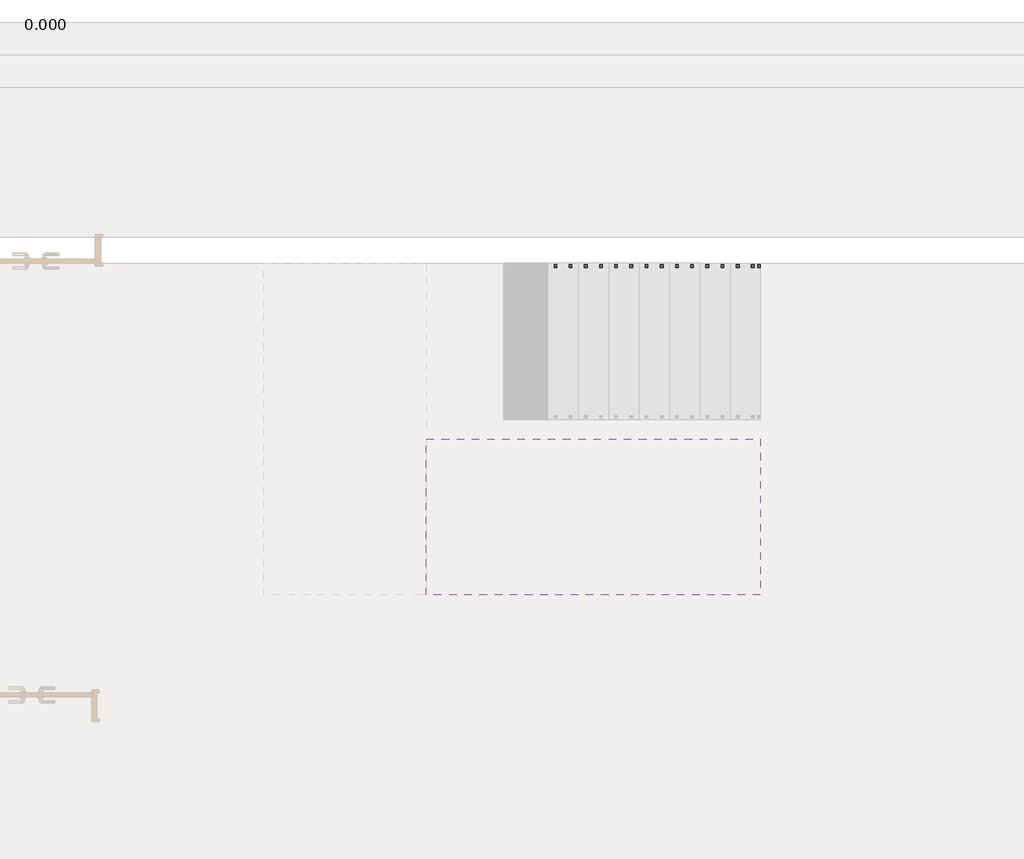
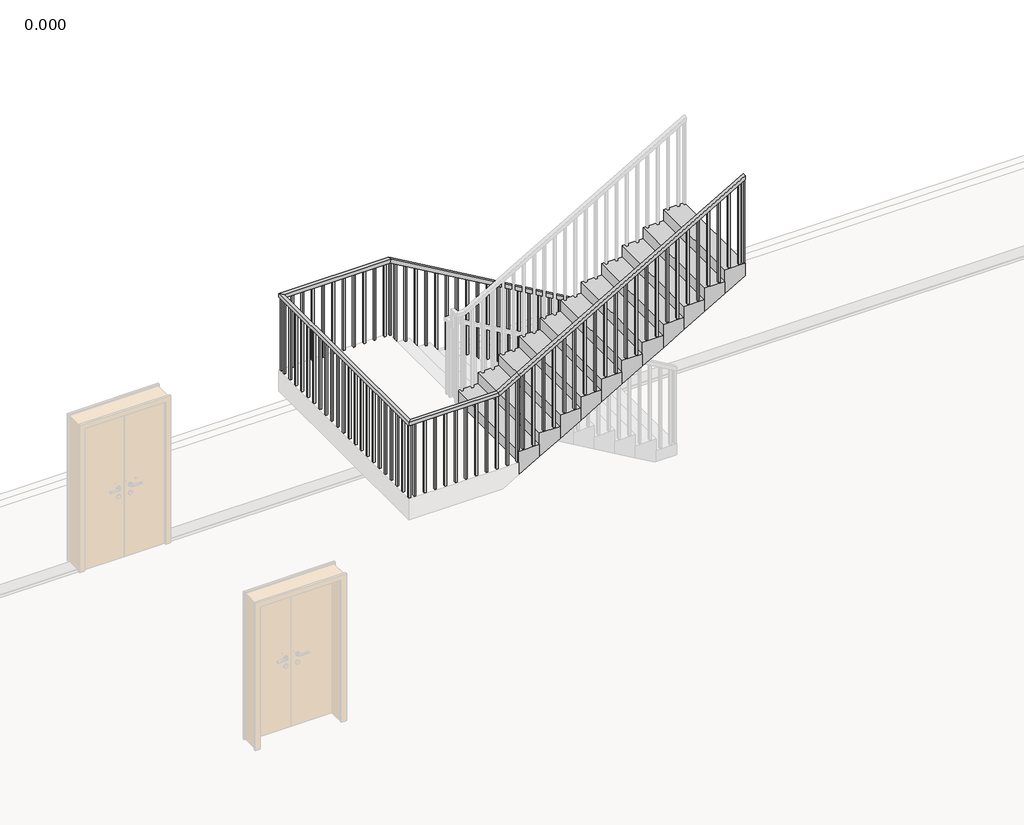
# One storey, part 2 of 4: 1 railing, 1 stair flight.
"""IFC4 building model written with IfcOpenShell, lengths in millimetres."""

import ifcopenshell
import ifcopenshell.guid

model = None  # the IFC model being written
_history = None  # IfcOwnerHistory: only IFC2X3 demands one
_inside = {}  # id of a spatial element -> (the spatial element, [elements in it])
_under = {}  # id of a project, library or spatial element -> (it, [spatial elements below it])
_declared = {}  # id of a project -> (the project, [libraries it declares])
_typed = {}  # id of a type object -> (the type object, [elements of that type])
_made_of = {}  # id of a material, layer set ... -> (it, [elements and type objects made of it])


def new_model(schema):
    """Start an empty IFC model of exactly this schema.

    Asked for "IFC4X3", IfcOpenShell would pick the latest addendum, in which some entities
    have other attributes; the version numbers below select the first issue.
    IFC2X3 requires an IfcOwnerHistory on every rooted entity: one is made here for all.
    """
    global model, _history
    if schema == "IFC4X3":
        model = ifcopenshell.file(schema_version=(4, 3, 0, 0))
    else:
        model = ifcopenshell.file(schema=schema)
    _inside.clear()
    _under.clear()
    _declared.clear()
    _typed.clear()
    _made_of.clear()
    _history = None
    if model.schema == "IFC2X3":
        org = make("IfcOrganization", Name="unknown")
        user = make(
            "IfcPersonAndOrganization",
            ThePerson=make("IfcPerson", FamilyName="unknown"),
            TheOrganization=org,
        )
        app = make(
            "IfcApplication",
            ApplicationDeveloper=org,
            Version="unknown",
            ApplicationFullName="unknown",
            ApplicationIdentifier="unknown",
        )
        _history = make(
            "IfcOwnerHistory",
            OwningUser=user,
            OwningApplication=app,
            ChangeAction="ADDED",
            CreationDate=0,
        )
    return model


def make(cls, **values):
    """One entity of the class cls with the attributes given. An attribute that is None is left unset."""
    return model.create_entity(
        cls, **{name: value for name, value in values.items() if value is not None}
    )


def rooted(cls, **values):
    """An entity with a GlobalId (a new one), such as an element, a storey or a relation."""
    return make(cls, GlobalId=ifcopenshell.guid.new(), OwnerHistory=_history, **values)


def si_unit(unit_type, name, prefix=None):
    """IfcSIUnit, for example si_unit("LENGTHUNIT", "METRE", prefix="MILLI")."""
    return make("IfcSIUnit", UnitType=unit_type, Prefix=prefix, Name=name)


def assignment(units):
    """IfcUnitAssignment: the units of a project."""
    return None if units is None else make("IfcUnitAssignment", Units=units)


def point(xyz):
    """IfcCartesianPoint."""
    return None if xyz is None else make("IfcCartesianPoint", Coordinates=xyz)


def direction(xyz):
    """IfcDirection."""
    return None if xyz is None else make("IfcDirection", DirectionRatios=xyz)


def frame(location, z_axis=None, x_axis=None):
    """IfcAxis2Placement3D, a coordinate frame: its origin and axes. An axis left out is left unset."""
    return make(
        "IfcAxis2Placement3D",
        Location=point(location),
        Axis=direction(z_axis),
        RefDirection=direction(x_axis),
    )


def origin():
    """The frame at (0, 0, 0) with its axes left unset."""
    return frame((0.0, 0.0, 0.0))


def place(relative_to, where):
    """IfcLocalPlacement: puts the frame where relative to a parent placement (None: the world)."""
    return make(
        "IfcLocalPlacement", PlacementRelTo=relative_to, RelativePlacement=where
    )


def context(
    kind, dimensions, precision=None, world=None, true_north=None, identifier=None
):
    """IfcGeometricRepresentationContext, for example the 3D "Model" context."""
    return make(
        "IfcGeometricRepresentationContext",
        ContextIdentifier=identifier,
        ContextType=kind,
        CoordinateSpaceDimension=dimensions,
        Precision=precision,
        WorldCoordinateSystem=world,
        TrueNorth=true_north,
    )


def project(units=None, contexts=None):
    """IfcProject with its units and contexts."""
    return rooted(
        "IfcProject",
        Name="project",
        RepresentationContexts=contexts,
        UnitsInContext=assignment(units),
    )


def spatial(cls, under=None, at=None, **own):
    """A site, building, storey or space (cls), placed at a placement, below another one or the project."""
    s = rooted(cls, ObjectPlacement=at, **own)
    if under is not None:
        _under.setdefault(under.id(), (under, []))[1].append(s)
    return s


def polyline(points):
    """IfcPolyline through the points."""
    return make("IfcPolyline", Points=[point(p) for p in points])


def outline(outer, holes=None, kind="AREA"):
    """IfcArbitraryClosedProfileDef: a profile drawn as a closed curve; with holes, ...WithVoids."""
    if holes is None:
        return make("IfcArbitraryClosedProfileDef", ProfileType=kind, OuterCurve=outer)
    return make(
        "IfcArbitraryProfileDefWithVoids",
        ProfileType=kind,
        OuterCurve=outer,
        InnerCurves=holes,
    )


def extrude(swept, where, along, depth):
    """IfcExtrudedAreaSolid: the profile swept, set in the frame where, extruded along a direction by depth."""
    return make(
        "IfcExtrudedAreaSolid",
        SweptArea=swept,
        Position=where,
        ExtrudedDirection=direction(along),
        Depth=depth,
    )


def faces_of(points, faces, orient=None, outer=None):
    """IfcFace entities. A face is a list of loops; a loop is a list of indices into points, from 0.

    orient and outer hold one flag for each loop. By default every Orientation is true, the
    first loop of a face is its IfcFaceOuterBound and the others are IfcFaceBound.
    """
    made = []
    for i, loops in enumerate(faces):
        bounds = []
        for j, loop in enumerate(loops):
            is_outer = j == 0 if outer is None else outer[i][j]
            bounds.append(
                make(
                    "IfcFaceOuterBound" if is_outer else "IfcFaceBound",
                    Bound=make("IfcPolyLoop", Polygon=[points[k] for k in loop]),
                    Orientation=True if orient is None else orient[i][j],
                )
            )
        made.append(make("IfcFace", Bounds=bounds))
    return made


def faceted_brep(points, faces, orient=None, outer=None, voids=None):
    """IfcFacetedBrep: a solid bounded by flat faces; with voids (closed shells), ...WithVoids."""
    shared = [point(p) for p in points]
    hull = make("IfcClosedShell", CfsFaces=faces_of(shared, faces, orient, outer))
    if voids is None:
        return make("IfcFacetedBrep", Outer=hull)
    return make(
        "IfcFacetedBrepWithVoids",
        Outer=hull,
        Voids=[
            make(cls, CfsFaces=faces_of(shared, fs, o, b)) for cls, fs, o, b in voids
        ],
    )


def shape(context_of_items, identifier, shape_type, items):
    """IfcShapeRepresentation: the items that make up one representation, for example the "Body"."""
    return make(
        "IfcShapeRepresentation",
        ContextOfItems=context_of_items,
        RepresentationIdentifier=identifier,
        RepresentationType=shape_type,
        Items=items,
    )


def made_of(thing, what):
    """Note that an element or type object is made of a material, layer set ...; save() writes the relation."""
    if what is not None:
        _made_of.setdefault(what.id(), (what, []))[1].append(thing)
    return thing


def element(
    cls,
    number,
    at=None,
    inside=None,
    cuts=None,
    type_object=None,
    material=None,
    context=None,
    identifier="Body",
    shape_type=None,
    held_by="IfcProductDefinitionShape",
    body=None,
    shapes=None,
    **own,
):
    """One element of the class cls, such as IfcWall. Its Tag is "e" and its number.

    at: its placement. inside: the storey or other place that contains it. cuts: it is an
    opening in that element (IfcRelVoidsElement). A single representation is given by context,
    identifier, shape_type and body (its items); several are given by shapes. held_by: the class
    of the entity that holds the representations. save() writes the other relations.
    """
    e = rooted(cls, Tag="e%d" % number, ObjectPlacement=at, **own)
    if body is not None:
        shapes = [shape(context, identifier, shape_type, body)]
    if shapes is not None:
        e.Representation = make(held_by, Representations=shapes)
    if inside is not None:
        _inside.setdefault(inside.id(), (inside, []))[1].append(e)
    if cuts is not None:
        rooted(
            "IfcRelVoidsElement", RelatingBuildingElement=cuts, RelatedOpeningElement=e
        )
    if type_object is not None:
        _typed.setdefault(type_object.id(), (type_object, []))[1].append(e)
    return made_of(e, material)


def aggregate(whole, parts):
    """IfcRelAggregates: a whole, such as a stair, and the parts it consists of."""
    return rooted("IfcRelAggregates", RelatingObject=whole, RelatedObjects=parts)


def save(model, path):
    """Write the relations noted so far, then the file.

    IfcRelAggregates (storeys below a building ...), IfcRelContainedInSpatialStructure (elements
    in a storey), IfcRelDefinesByType, IfcRelAssociatesMaterial and IfcRelDeclares: one each for
    every whole, place, type object, material and project.
    """
    for whole, parts in _under.values():
        aggregate(whole, parts)
    for where, things in _inside.values():
        rooted(
            "IfcRelContainedInSpatialStructure",
            RelatedElements=things,
            RelatingStructure=where,
        )
    for kind, things in _typed.values():
        rooted("IfcRelDefinesByType", RelatedObjects=things, RelatingType=kind)
    for what, things in _made_of.values():
        rooted("IfcRelAssociatesMaterial", RelatedObjects=things, RelatingMaterial=what)
    for by, libraries in _declared.values():
        rooted("IfcRelDeclares", RelatingContext=by, RelatedDefinitions=libraries)
    model.write(path)


model = new_model("IFC4")

# Units and contexts
model_context = context("Model", 3, world=origin())
ifc_project = project(units=[si_unit("LENGTHUNIT", "METRE", prefix="MILLI")], contexts=[model_context])

# Site, building, storey
site = spatial("IfcSite", under=ifc_project)
building = spatial("IfcBuilding", under=site)
storey = spatial("IfcBuildingStorey", under=building, Name="0.000", Elevation=0.0)

# Railing
placement = place(None, origin())
element("IfcRailing", 1, ObjectType="1100mm", at=placement, inside=storey, context=model_context, shape_type="SolidModel", body=[
    faceted_brep([(8832.9890344, 5346.2095817, 1262.5), (8832.9890344, 5346.2095817, 1204.6896546), (8832.9890344, 5396.2095817, 1204.6896546), (8832.9890344, 5396.2095817, 1262.5), (5752.9890344, 5346.2095817, 3050.0), (5739.5312085, 5346.2095817, 3000.0), (5739.5312085, 5396.2095817, 3000.0), (5752.9890344, 5396.2095817, 3050.0), (4303.3890344, 5346.2095817, 3050.0), (4303.3890344, 5346.2095817, 3000.0), (4253.3890344, 5396.2095817, 3000.0), (4253.3890344, 5396.2095817, 3050.0), (4303.3890344, 2387.0095817, 3050.0), (4303.3890344, 2387.0095817, 3000.0), (4253.3890344, 2337.0095817, 3000.0), (4253.3890344, 2337.0095817, 3050.0), (5472.9890344, 2387.0095817, 3050.0), (5486.4468602, 2387.0095817, 3000.0), (5486.4468602, 2337.0095817, 3000.0), (5472.9890344, 2337.0095817, 3050.0), (5752.9890344, 2387.0095817, 3212.5), (5778.0864948, 2387.0095817, 3169.2551451), (5778.0864948, 2337.0095817, 3169.2551451), (5752.9890344, 2337.0095817, 3212.5), (8832.9890344, 2387.0095817, 5000.0), (8832.9890344, 2337.0095817, 5000.0), (8832.9890344, 2337.0095817, 4942.1896546), (8832.9890344, 2387.0095817, 4942.1896546)], [[[0, 1, 2, 3]], [[1, 0, 4, 5]], [[2, 1, 5, 6]], [[3, 2, 6, 7]], [[0, 3, 7, 4]], [[5, 4, 8, 9]], [[6, 5, 9, 10]], [[7, 6, 10, 11]], [[4, 7, 11, 8]], [[9, 8, 12, 13]], [[10, 9, 13, 14]], [[11, 10, 14, 15]], [[8, 11, 15, 12]], [[13, 12, 16, 17]], [[14, 13, 17, 18]], [[15, 14, 18, 19]], [[12, 15, 19, 16]], [[17, 16, 20, 21]], [[18, 17, 21, 22]], [[19, 18, 22, 23]], [[16, 19, 23, 20]], [[24, 25, 26, 27]], [[21, 20, 24, 27]], [[22, 21, 27, 26]], [[23, 22, 26, 25]], [[20, 23, 25, 24]]]),
    extrude(outline(polyline([(4894.3101903, 8750.4890344), (3737.5, 8750.4890344), (3737.5, 8775.4890344), (4908.8191189, 8775.4890344), (4894.3101903, 8750.4890344)])), frame((0.0, 2349.5095817, 0.0), z_axis=(0.0, 1.0, 0.0), x_axis=(0.0, 0.0, 1.0)), (0.0, 0.0, 1.0), 25.0),
    extrude(outline(polyline([(4813.0601903, 8610.4890344), (3737.5, 8610.4890344), (3737.5, 8635.4890344), (4827.5691189, 8635.4890344), (4813.0601903, 8610.4890344)])), frame((0.0, 2349.5095817, 0.0), z_axis=(0.0, 1.0, 0.0), x_axis=(0.0, 0.0, 1.0)), (0.0, 0.0, 1.0), 25.0),
    extrude(outline(polyline([(4731.8101903, 8470.4890344), (3575.0, 8470.4890344), (3575.0, 8495.4890344), (4746.3191189, 8495.4890344), (4731.8101903, 8470.4890344)])), frame((0.0, 2349.5095817, 0.0), z_axis=(0.0, 1.0, 0.0), x_axis=(0.0, 0.0, 1.0)), (0.0, 0.0, 1.0), 25.0),
    extrude(outline(polyline([(4650.5601903, 8330.4890344), (3575.0, 8330.4890344), (3575.0, 8355.4890344), (4665.0691189, 8355.4890344), (4650.5601903, 8330.4890344)])), frame((0.0, 2349.5095817, 0.0), z_axis=(0.0, 1.0, 0.0), x_axis=(0.0, 0.0, 1.0)), (0.0, 0.0, 1.0), 25.0),
    extrude(outline(polyline([(4569.3101903, 8190.4890344), (3412.5, 8190.4890344), (3412.5, 8215.4890344), (4583.8191189, 8215.4890344), (4569.3101903, 8190.4890344)])), frame((0.0, 2349.5095817, 0.0), z_axis=(0.0, 1.0, 0.0), x_axis=(0.0, 0.0, 1.0)), (0.0, 0.0, 1.0), 25.0),
    extrude(outline(polyline([(4488.0601903, 8050.4890344), (3412.5, 8050.4890344), (3412.5, 8075.4890344), (4502.5691189, 8075.4890344), (4488.0601903, 8050.4890344)])), frame((0.0, 2349.5095817, 0.0), z_axis=(0.0, 1.0, 0.0), x_axis=(0.0, 0.0, 1.0)), (0.0, 0.0, 1.0), 25.0),
    extrude(outline(polyline([(4406.8101903, 7910.4890344), (3250.0, 7910.4890344), (3250.0, 7935.4890344), (4421.3191189, 7935.4890344), (4406.8101903, 7910.4890344)])), frame((0.0, 2349.5095817, 0.0), z_axis=(0.0, 1.0, 0.0), x_axis=(0.0, 0.0, 1.0)), (0.0, 0.0, 1.0), 25.0),
    extrude(outline(polyline([(4325.5601903, 7770.4890344), (3250.0, 7770.4890344), (3250.0, 7795.4890344), (4340.0691189, 7795.4890344), (4325.5601903, 7770.4890344)])), frame((0.0, 2349.5095817, 0.0), z_axis=(0.0, 1.0, 0.0), x_axis=(0.0, 0.0, 1.0)), (0.0, 0.0, 1.0), 25.0),
    extrude(outline(polyline([(4244.3101903, 7630.4890344), (3087.5, 7630.4890344), (3087.5, 7655.4890344), (4258.8191189, 7655.4890344), (4244.3101903, 7630.4890344)])), frame((0.0, 2349.5095817, 0.0), z_axis=(0.0, 1.0, 0.0), x_axis=(0.0, 0.0, 1.0)), (0.0, 0.0, 1.0), 25.0),
    extrude(outline(polyline([(4163.0601903, 7490.4890344), (3087.5, 7490.4890344), (3087.5, 7515.4890344), (4177.5691189, 7515.4890344), (4163.0601903, 7490.4890344)])), frame((0.0, 2349.5095817, 0.0), z_axis=(0.0, 1.0, 0.0), x_axis=(0.0, 0.0, 1.0)), (0.0, 0.0, 1.0), 25.0),
    extrude(outline(polyline([(4081.8101903, 7350.4890344), (2925.0, 7350.4890344), (2925.0, 7375.4890344), (4096.3191189, 7375.4890344), (4081.8101903, 7350.4890344)])), frame((0.0, 2349.5095817, 0.0), z_axis=(0.0, 1.0, 0.0), x_axis=(0.0, 0.0, 1.0)), (0.0, 0.0, 1.0), 25.0),
    extrude(outline(polyline([(4000.5601903, 7210.4890344), (2925.0, 7210.4890344), (2925.0, 7235.4890344), (4015.0691189, 7235.4890344), (4000.5601903, 7210.4890344)])), frame((0.0, 2349.5095817, 0.0), z_axis=(0.0, 1.0, 0.0), x_axis=(0.0, 0.0, 1.0)), (0.0, 0.0, 1.0), 25.0),
    extrude(outline(polyline([(3919.3101903, 7070.4890344), (2762.5, 7070.4890344), (2762.5, 7095.4890344), (3933.8191189, 7095.4890344), (3919.3101903, 7070.4890344)])), frame((0.0, 2349.5095817, 0.0), z_axis=(0.0, 1.0, 0.0), x_axis=(0.0, 0.0, 1.0)), (0.0, 0.0, 1.0), 25.0),
    extrude(outline(polyline([(3838.0601903, 6930.4890344), (2762.5, 6930.4890344), (2762.5, 6955.4890344), (3852.5691189, 6955.4890344), (3838.0601903, 6930.4890344)])), frame((0.0, 2349.5095817, 0.0), z_axis=(0.0, 1.0, 0.0), x_axis=(0.0, 0.0, 1.0)), (0.0, 0.0, 1.0), 25.0),
    extrude(outline(polyline([(3756.8101903, 6790.4890344), (2600.0, 6790.4890344), (2600.0, 6815.4890344), (3771.3191189, 6815.4890344), (3756.8101903, 6790.4890344)])), frame((0.0, 2349.5095817, 0.0), z_axis=(0.0, 1.0, 0.0), x_axis=(0.0, 0.0, 1.0)), (0.0, 0.0, 1.0), 25.0),
    extrude(outline(polyline([(3675.5601903, 6650.4890344), (2600.0, 6650.4890344), (2600.0, 6675.4890344), (3690.0691189, 6675.4890344), (3675.5601903, 6650.4890344)])), frame((0.0, 2349.5095817, 0.0), z_axis=(0.0, 1.0, 0.0), x_axis=(0.0, 0.0, 1.0)), (0.0, 0.0, 1.0), 25.0),
    extrude(outline(polyline([(3594.3101903, 6510.4890344), (2437.5, 6510.4890344), (2437.5, 6535.4890344), (3608.8191189, 6535.4890344), (3594.3101903, 6510.4890344)])), frame((0.0, 2349.5095817, 0.0), z_axis=(0.0, 1.0, 0.0), x_axis=(0.0, 0.0, 1.0)), (0.0, 0.0, 1.0), 25.0),
    extrude(outline(polyline([(3513.0601903, 6370.4890344), (2437.5, 6370.4890344), (2437.5, 6395.4890344), (3527.5691189, 6395.4890344), (3513.0601903, 6370.4890344)])), frame((0.0, 2349.5095817, 0.0), z_axis=(0.0, 1.0, 0.0), x_axis=(0.0, 0.0, 1.0)), (0.0, 0.0, 1.0), 25.0),
    extrude(outline(polyline([(3431.8101903, 6230.4890344), (2275.0, 6230.4890344), (2275.0, 6255.4890344), (3446.3191189, 6255.4890344), (3431.8101903, 6230.4890344)])), frame((0.0, 2349.5095817, 0.0), z_axis=(0.0, 1.0, 0.0), x_axis=(0.0, 0.0, 1.0)), (0.0, 0.0, 1.0), 25.0),
    extrude(outline(polyline([(3350.5601903, 6090.4890344), (2275.0, 6090.4890344), (2275.0, 6115.4890344), (3365.0691189, 6115.4890344), (3350.5601903, 6090.4890344)])), frame((0.0, 2349.5095817, 0.0), z_axis=(0.0, 1.0, 0.0), x_axis=(0.0, 0.0, 1.0)), (0.0, 0.0, 1.0), 25.0),
    extrude(outline(polyline([(3269.3101903, 5950.4890344), (2112.5, 5950.4890344), (2112.5, 5975.4890344), (3283.8191189, 5975.4890344), (3269.3101903, 5950.4890344)])), frame((0.0, 2349.5095817, 0.0), z_axis=(0.0, 1.0, 0.0), x_axis=(0.0, 0.0, 1.0)), (0.0, 0.0, 1.0), 25.0),
    extrude(outline(polyline([(3188.0601903, 5810.4890344), (2112.5, 5810.4890344), (2112.5, 5835.4890344), (3202.5691189, 5835.4890344), (3188.0601903, 5810.4890344)])), frame((0.0, 2349.5095817, 0.0), z_axis=(0.0, 1.0, 0.0), x_axis=(0.0, 0.0, 1.0)), (0.0, 0.0, 1.0), 25.0),
    extrude(outline(polyline([(3144.7655475, 5735.8890344), (1950.0, 5735.8890344), (1950.0, 5760.8890344), (3159.274476, 5760.8890344), (3144.7655475, 5735.8890344)])), frame((0.0, 2349.5095817, 0.0), z_axis=(0.0, 1.0, 0.0), x_axis=(0.0, 0.0, 1.0)), (0.0, 0.0, 1.0), 25.0),
    extrude(outline(polyline([(3063.5155475, 5595.8890344), (1950.0, 5595.8890344), (1950.0, 5620.8890344), (3078.024476, 5620.8890344), (3063.5155475, 5595.8890344)])), frame((0.0, 2349.5095817, 0.0), z_axis=(0.0, 1.0, 0.0), x_axis=(0.0, 0.0, 1.0)), (0.0, 0.0, 1.0), 25.0),
    extrude(outline(polyline([(5455.8890344, 2349.5095817), (5455.8890344, 2374.5095817), (5480.8890344, 2374.5095817), (5480.8890344, 2349.5095817), (5455.8890344, 2349.5095817)])), frame((0.0, 0.0, 1950.0), z_axis=(0.0, 0.0, 1.0), x_axis=(1.0, 0.0, 0.0)), (0.0, 0.0, 1.0), 1050.0),
    extrude(outline(polyline([(5315.8890344, 2349.5095817), (5315.8890344, 2374.5095817), (5340.8890344, 2374.5095817), (5340.8890344, 2349.5095817), (5315.8890344, 2349.5095817)])), frame((0.0, 0.0, 1950.0), z_axis=(0.0, 0.0, 1.0), x_axis=(1.0, 0.0, 0.0)), (0.0, 0.0, 1.0), 1050.0),
    extrude(outline(polyline([(5175.8890344, 2349.5095817), (5175.8890344, 2374.5095817), (5200.8890344, 2374.5095817), (5200.8890344, 2349.5095817), (5175.8890344, 2349.5095817)])), frame((0.0, 0.0, 1950.0), z_axis=(0.0, 0.0, 1.0), x_axis=(1.0, 0.0, 0.0)), (0.0, 0.0, 1.0), 1050.0),
    extrude(outline(polyline([(5035.8890344, 2349.5095817), (5035.8890344, 2374.5095817), (5060.8890344, 2374.5095817), (5060.8890344, 2349.5095817), (5035.8890344, 2349.5095817)])), frame((0.0, 0.0, 1950.0), z_axis=(0.0, 0.0, 1.0), x_axis=(1.0, 0.0, 0.0)), (0.0, 0.0, 1.0), 1050.0),
    extrude(outline(polyline([(4895.8890344, 2349.5095817), (4895.8890344, 2374.5095817), (4920.8890344, 2374.5095817), (4920.8890344, 2349.5095817), (4895.8890344, 2349.5095817)])), frame((0.0, 0.0, 1950.0), z_axis=(0.0, 0.0, 1.0), x_axis=(1.0, 0.0, 0.0)), (0.0, 0.0, 1.0), 1050.0),
    extrude(outline(polyline([(4755.8890344, 2349.5095817), (4755.8890344, 2374.5095817), (4780.8890344, 2374.5095817), (4780.8890344, 2349.5095817), (4755.8890344, 2349.5095817)])), frame((0.0, 0.0, 1950.0), z_axis=(0.0, 0.0, 1.0), x_axis=(1.0, 0.0, 0.0)), (0.0, 0.0, 1.0), 1050.0),
    extrude(outline(polyline([(4615.8890344, 2349.5095817), (4615.8890344, 2374.5095817), (4640.8890344, 2374.5095817), (4640.8890344, 2349.5095817), (4615.8890344, 2349.5095817)])), frame((0.0, 0.0, 1950.0), z_axis=(0.0, 0.0, 1.0), x_axis=(1.0, 0.0, 0.0)), (0.0, 0.0, 1.0), 1050.0),
    extrude(outline(polyline([(4475.8890344, 2349.5095817), (4475.8890344, 2374.5095817), (4500.8890344, 2374.5095817), (4500.8890344, 2349.5095817), (4475.8890344, 2349.5095817)])), frame((0.0, 0.0, 1950.0), z_axis=(0.0, 0.0, 1.0), x_axis=(1.0, 0.0, 0.0)), (0.0, 0.0, 1.0), 1050.0),
    extrude(outline(polyline([(4335.8890344, 2349.5095817), (4335.8890344, 2374.5095817), (4360.8890344, 2374.5095817), (4360.8890344, 2349.5095817), (4335.8890344, 2349.5095817)])), frame((0.0, 0.0, 1950.0), z_axis=(0.0, 0.0, 1.0), x_axis=(1.0, 0.0, 0.0)), (0.0, 0.0, 1.0), 1050.0),
    extrude(outline(polyline([(4265.8890344, 2513.7095817), (4290.8890344, 2513.7095817), (4290.8890344, 2488.7095817), (4265.8890344, 2488.7095817), (4265.8890344, 2513.7095817)])), frame((0.0, 0.0, 1950.0), z_axis=(0.0, 0.0, 1.0), x_axis=(1.0, 0.0, 0.0)), (0.0, 0.0, 1.0), 1050.0),
    extrude(outline(polyline([(4265.8890344, 2653.7095817), (4290.8890344, 2653.7095817), (4290.8890344, 2628.7095817), (4265.8890344, 2628.7095817), (4265.8890344, 2653.7095817)])), frame((0.0, 0.0, 1950.0), z_axis=(0.0, 0.0, 1.0), x_axis=(1.0, 0.0, 0.0)), (0.0, 0.0, 1.0), 1050.0),
    extrude(outline(polyline([(4265.8890344, 2793.7095817), (4290.8890344, 2793.7095817), (4290.8890344, 2768.7095817), (4265.8890344, 2768.7095817), (4265.8890344, 2793.7095817)])), frame((0.0, 0.0, 1950.0), z_axis=(0.0, 0.0, 1.0), x_axis=(1.0, 0.0, 0.0)), (0.0, 0.0, 1.0), 1050.0),
    extrude(outline(polyline([(4265.8890344, 2933.7095817), (4290.8890344, 2933.7095817), (4290.8890344, 2908.7095817), (4265.8890344, 2908.7095817), (4265.8890344, 2933.7095817)])), frame((0.0, 0.0, 1950.0), z_axis=(0.0, 0.0, 1.0), x_axis=(1.0, 0.0, 0.0)), (0.0, 0.0, 1.0), 1050.0),
    extrude(outline(polyline([(4265.8890344, 3073.7095817), (4290.8890344, 3073.7095817), (4290.8890344, 3048.7095817), (4265.8890344, 3048.7095817), (4265.8890344, 3073.7095817)])), frame((0.0, 0.0, 1950.0), z_axis=(0.0, 0.0, 1.0), x_axis=(1.0, 0.0, 0.0)), (0.0, 0.0, 1.0), 1050.0),
    extrude(outline(polyline([(4265.8890344, 3213.7095817), (4290.8890344, 3213.7095817), (4290.8890344, 3188.7095817), (4265.8890344, 3188.7095817), (4265.8890344, 3213.7095817)])), frame((0.0, 0.0, 1950.0), z_axis=(0.0, 0.0, 1.0), x_axis=(1.0, 0.0, 0.0)), (0.0, 0.0, 1.0), 1050.0),
    extrude(outline(polyline([(4265.8890344, 3353.7095817), (4290.8890344, 3353.7095817), (4290.8890344, 3328.7095817), (4265.8890344, 3328.7095817), (4265.8890344, 3353.7095817)])), frame((0.0, 0.0, 1950.0), z_axis=(0.0, 0.0, 1.0), x_axis=(1.0, 0.0, 0.0)), (0.0, 0.0, 1.0), 1050.0),
    extrude(outline(polyline([(4265.8890344, 3493.7095817), (4290.8890344, 3493.7095817), (4290.8890344, 3468.7095817), (4265.8890344, 3468.7095817), (4265.8890344, 3493.7095817)])), frame((0.0, 0.0, 1950.0), z_axis=(0.0, 0.0, 1.0), x_axis=(1.0, 0.0, 0.0)), (0.0, 0.0, 1.0), 1050.0),
    extrude(outline(polyline([(4265.8890344, 3633.7095817), (4290.8890344, 3633.7095817), (4290.8890344, 3608.7095817), (4265.8890344, 3608.7095817), (4265.8890344, 3633.7095817)])), frame((0.0, 0.0, 1950.0), z_axis=(0.0, 0.0, 1.0), x_axis=(1.0, 0.0, 0.0)), (0.0, 0.0, 1.0), 1050.0),
    extrude(outline(polyline([(4265.8890344, 3773.7095817), (4290.8890344, 3773.7095817), (4290.8890344, 3748.7095817), (4265.8890344, 3748.7095817), (4265.8890344, 3773.7095817)])), frame((0.0, 0.0, 1950.0), z_axis=(0.0, 0.0, 1.0), x_axis=(1.0, 0.0, 0.0)), (0.0, 0.0, 1.0), 1050.0),
    extrude(outline(polyline([(4265.8890344, 3913.7095817), (4290.8890344, 3913.7095817), (4290.8890344, 3888.7095817), (4265.8890344, 3888.7095817), (4265.8890344, 3913.7095817)])), frame((0.0, 0.0, 1950.0), z_axis=(0.0, 0.0, 1.0), x_axis=(1.0, 0.0, 0.0)), (0.0, 0.0, 1.0), 1050.0),
    extrude(outline(polyline([(4265.8890344, 4053.7095817), (4290.8890344, 4053.7095817), (4290.8890344, 4028.7095817), (4265.8890344, 4028.7095817), (4265.8890344, 4053.7095817)])), frame((0.0, 0.0, 1950.0), z_axis=(0.0, 0.0, 1.0), x_axis=(1.0, 0.0, 0.0)), (0.0, 0.0, 1.0), 1050.0),
    extrude(outline(polyline([(4265.8890344, 4193.7095817), (4290.8890344, 4193.7095817), (4290.8890344, 4168.7095817), (4265.8890344, 4168.7095817), (4265.8890344, 4193.7095817)])), frame((0.0, 0.0, 1950.0), z_axis=(0.0, 0.0, 1.0), x_axis=(1.0, 0.0, 0.0)), (0.0, 0.0, 1.0), 1050.0),
    extrude(outline(polyline([(4265.8890344, 4333.7095817), (4290.8890344, 4333.7095817), (4290.8890344, 4308.7095817), (4265.8890344, 4308.7095817), (4265.8890344, 4333.7095817)])), frame((0.0, 0.0, 1950.0), z_axis=(0.0, 0.0, 1.0), x_axis=(1.0, 0.0, 0.0)), (0.0, 0.0, 1.0), 1050.0),
    extrude(outline(polyline([(4265.8890344, 4473.7095817), (4290.8890344, 4473.7095817), (4290.8890344, 4448.7095817), (4265.8890344, 4448.7095817), (4265.8890344, 4473.7095817)])), frame((0.0, 0.0, 1950.0), z_axis=(0.0, 0.0, 1.0), x_axis=(1.0, 0.0, 0.0)), (0.0, 0.0, 1.0), 1050.0),
    extrude(outline(polyline([(4265.8890344, 4613.7095817), (4290.8890344, 4613.7095817), (4290.8890344, 4588.7095817), (4265.8890344, 4588.7095817), (4265.8890344, 4613.7095817)])), frame((0.0, 0.0, 1950.0), z_axis=(0.0, 0.0, 1.0), x_axis=(1.0, 0.0, 0.0)), (0.0, 0.0, 1.0), 1050.0),
    extrude(outline(polyline([(4265.8890344, 4753.7095817), (4290.8890344, 4753.7095817), (4290.8890344, 4728.7095817), (4265.8890344, 4728.7095817), (4265.8890344, 4753.7095817)])), frame((0.0, 0.0, 1950.0), z_axis=(0.0, 0.0, 1.0), x_axis=(1.0, 0.0, 0.0)), (0.0, 0.0, 1.0), 1050.0),
    extrude(outline(polyline([(4265.8890344, 4893.7095817), (4290.8890344, 4893.7095817), (4290.8890344, 4868.7095817), (4265.8890344, 4868.7095817), (4265.8890344, 4893.7095817)])), frame((0.0, 0.0, 1950.0), z_axis=(0.0, 0.0, 1.0), x_axis=(1.0, 0.0, 0.0)), (0.0, 0.0, 1.0), 1050.0),
    extrude(outline(polyline([(4265.8890344, 5033.7095817), (4290.8890344, 5033.7095817), (4290.8890344, 5008.7095817), (4265.8890344, 5008.7095817), (4265.8890344, 5033.7095817)])), frame((0.0, 0.0, 1950.0), z_axis=(0.0, 0.0, 1.0), x_axis=(1.0, 0.0, 0.0)), (0.0, 0.0, 1.0), 1050.0),
    extrude(outline(polyline([(4265.8890344, 5173.7095817), (4290.8890344, 5173.7095817), (4290.8890344, 5148.7095817), (4265.8890344, 5148.7095817), (4265.8890344, 5173.7095817)])), frame((0.0, 0.0, 1950.0), z_axis=(0.0, 0.0, 1.0), x_axis=(1.0, 0.0, 0.0)), (0.0, 0.0, 1.0), 1050.0),
    extrude(outline(polyline([(4265.8890344, 5313.7095817), (4290.8890344, 5313.7095817), (4290.8890344, 5288.7095817), (4265.8890344, 5288.7095817), (4265.8890344, 5313.7095817)])), frame((0.0, 0.0, 1950.0), z_axis=(0.0, 0.0, 1.0), x_axis=(1.0, 0.0, 0.0)), (0.0, 0.0, 1.0), 1050.0),
    extrude(outline(polyline([(4295.4890344, 5383.7095817), (4295.4890344, 5358.7095817), (4270.4890344, 5358.7095817), (4270.4890344, 5383.7095817), (4295.4890344, 5383.7095817)])), frame((0.0, 0.0, 1950.0), z_axis=(0.0, 0.0, 1.0), x_axis=(1.0, 0.0, 0.0)), (0.0, 0.0, 1.0), 1050.0),
    extrude(outline(polyline([(4435.4890344, 5383.7095817), (4435.4890344, 5358.7095817), (4410.4890344, 5358.7095817), (4410.4890344, 5383.7095817), (4435.4890344, 5383.7095817)])), frame((0.0, 0.0, 1950.0), z_axis=(0.0, 0.0, 1.0), x_axis=(1.0, 0.0, 0.0)), (0.0, 0.0, 1.0), 1050.0),
    extrude(outline(polyline([(4575.4890344, 5383.7095817), (4575.4890344, 5358.7095817), (4550.4890344, 5358.7095817), (4550.4890344, 5383.7095817), (4575.4890344, 5383.7095817)])), frame((0.0, 0.0, 1950.0), z_axis=(0.0, 0.0, 1.0), x_axis=(1.0, 0.0, 0.0)), (0.0, 0.0, 1.0), 1050.0),
    extrude(outline(polyline([(4715.4890344, 5383.7095817), (4715.4890344, 5358.7095817), (4690.4890344, 5358.7095817), (4690.4890344, 5383.7095817), (4715.4890344, 5383.7095817)])), frame((0.0, 0.0, 1950.0), z_axis=(0.0, 0.0, 1.0), x_axis=(1.0, 0.0, 0.0)), (0.0, 0.0, 1.0), 1050.0),
    extrude(outline(polyline([(4855.4890344, 5383.7095817), (4855.4890344, 5358.7095817), (4830.4890344, 5358.7095817), (4830.4890344, 5383.7095817), (4855.4890344, 5383.7095817)])), frame((0.0, 0.0, 1950.0), z_axis=(0.0, 0.0, 1.0), x_axis=(1.0, 0.0, 0.0)), (0.0, 0.0, 1.0), 1050.0),
    extrude(outline(polyline([(4995.4890344, 5383.7095817), (4995.4890344, 5358.7095817), (4970.4890344, 5358.7095817), (4970.4890344, 5383.7095817), (4995.4890344, 5383.7095817)])), frame((0.0, 0.0, 1950.0), z_axis=(0.0, 0.0, 1.0), x_axis=(1.0, 0.0, 0.0)), (0.0, 0.0, 1.0), 1050.0),
    extrude(outline(polyline([(5135.4890344, 5383.7095817), (5135.4890344, 5358.7095817), (5110.4890344, 5358.7095817), (5110.4890344, 5383.7095817), (5135.4890344, 5383.7095817)])), frame((0.0, 0.0, 1950.0), z_axis=(0.0, 0.0, 1.0), x_axis=(1.0, 0.0, 0.0)), (0.0, 0.0, 1.0), 1050.0),
    extrude(outline(polyline([(5275.4890344, 5383.7095817), (5275.4890344, 5358.7095817), (5250.4890344, 5358.7095817), (5250.4890344, 5383.7095817), (5275.4890344, 5383.7095817)])), frame((0.0, 0.0, 1950.0), z_axis=(0.0, 0.0, 1.0), x_axis=(1.0, 0.0, 0.0)), (0.0, 0.0, 1.0), 1050.0),
    extrude(outline(polyline([(5415.4890344, 5383.7095817), (5415.4890344, 5358.7095817), (5390.4890344, 5358.7095817), (5390.4890344, 5383.7095817), (5415.4890344, 5383.7095817)])), frame((0.0, 0.0, 1950.0), z_axis=(0.0, 0.0, 1.0), x_axis=(1.0, 0.0, 0.0)), (0.0, 0.0, 1.0), 1050.0),
    extrude(outline(polyline([(5555.4890344, 5383.7095817), (5555.4890344, 5358.7095817), (5530.4890344, 5358.7095817), (5530.4890344, 5383.7095817), (5555.4890344, 5383.7095817)])), frame((0.0, 0.0, 1950.0), z_axis=(0.0, 0.0, 1.0), x_axis=(1.0, 0.0, 0.0)), (0.0, 0.0, 1.0), 1050.0),
    extrude(outline(polyline([(5695.4890344, 5383.7095817), (5695.4890344, 5358.7095817), (5670.4890344, 5358.7095817), (5670.4890344, 5383.7095817), (5695.4890344, 5383.7095817)])), frame((0.0, 0.0, 1950.0), z_axis=(0.0, 0.0, 1.0), x_axis=(1.0, 0.0, 0.0)), (0.0, 0.0, 1.0), 1050.0),
    extrude(outline(polyline([(1787.5, 5835.4890344), (2944.3101903, 5835.4890344), (2958.8191189, 5810.4890344), (1787.5, 5810.4890344), (1787.5, 5835.4890344)])), frame((0.0, 5358.7095817, 0.0), z_axis=(0.0, 1.0, 0.0), x_axis=(0.0, 0.0, 1.0)), (0.0, 0.0, 1.0), 25.0),
    extrude(outline(polyline([(1787.5, 5975.4890344), (2863.0601903, 5975.4890344), (2877.5691189, 5950.4890344), (1787.5, 5950.4890344), (1787.5, 5975.4890344)])), frame((0.0, 5358.7095817, 0.0), z_axis=(0.0, 1.0, 0.0), x_axis=(0.0, 0.0, 1.0)), (0.0, 0.0, 1.0), 25.0),
    extrude(outline(polyline([(1625.0, 6115.4890344), (2781.8101903, 6115.4890344), (2796.3191189, 6090.4890344), (1625.0, 6090.4890344), (1625.0, 6115.4890344)])), frame((0.0, 5358.7095817, 0.0), z_axis=(0.0, 1.0, 0.0), x_axis=(0.0, 0.0, 1.0)), (0.0, 0.0, 1.0), 25.0),
    extrude(outline(polyline([(1625.0, 6255.4890344), (2700.5601903, 6255.4890344), (2715.0691189, 6230.4890344), (1625.0, 6230.4890344), (1625.0, 6255.4890344)])), frame((0.0, 5358.7095817, 0.0), z_axis=(0.0, 1.0, 0.0), x_axis=(0.0, 0.0, 1.0)), (0.0, 0.0, 1.0), 25.0),
    extrude(outline(polyline([(1462.5, 6395.4890344), (2619.3101903, 6395.4890344), (2633.8191189, 6370.4890344), (1462.5, 6370.4890344), (1462.5, 6395.4890344)])), frame((0.0, 5358.7095817, 0.0), z_axis=(0.0, 1.0, 0.0), x_axis=(0.0, 0.0, 1.0)), (0.0, 0.0, 1.0), 25.0),
    extrude(outline(polyline([(1462.5, 6535.4890344), (2538.0601903, 6535.4890344), (2552.5691189, 6510.4890344), (1462.5, 6510.4890344), (1462.5, 6535.4890344)])), frame((0.0, 5358.7095817, 0.0), z_axis=(0.0, 1.0, 0.0), x_axis=(0.0, 0.0, 1.0)), (0.0, 0.0, 1.0), 25.0),
    extrude(outline(polyline([(1300.0, 6675.4890344), (2456.8101903, 6675.4890344), (2471.3191189, 6650.4890344), (1300.0, 6650.4890344), (1300.0, 6675.4890344)])), frame((0.0, 5358.7095817, 0.0), z_axis=(0.0, 1.0, 0.0), x_axis=(0.0, 0.0, 1.0)), (0.0, 0.0, 1.0), 25.0),
    extrude(outline(polyline([(1300.0, 6815.4890344), (2375.5601903, 6815.4890344), (2390.0691189, 6790.4890344), (1300.0, 6790.4890344), (1300.0, 6815.4890344)])), frame((0.0, 5358.7095817, 0.0), z_axis=(0.0, 1.0, 0.0), x_axis=(0.0, 0.0, 1.0)), (0.0, 0.0, 1.0), 25.0),
    extrude(outline(polyline([(1137.5, 6955.4890344), (2294.3101903, 6955.4890344), (2308.8191189, 6930.4890344), (1137.5, 6930.4890344), (1137.5, 6955.4890344)])), frame((0.0, 5358.7095817, 0.0), z_axis=(0.0, 1.0, 0.0), x_axis=(0.0, 0.0, 1.0)), (0.0, 0.0, 1.0), 25.0),
    extrude(outline(polyline([(1137.5, 7095.4890344), (2213.0601903, 7095.4890344), (2227.5691189, 7070.4890344), (1137.5, 7070.4890344), (1137.5, 7095.4890344)])), frame((0.0, 5358.7095817, 0.0), z_axis=(0.0, 1.0, 0.0), x_axis=(0.0, 0.0, 1.0)), (0.0, 0.0, 1.0), 25.0),
    extrude(outline(polyline([(975.0, 7235.4890344), (2131.8101903, 7235.4890344), (2146.3191189, 7210.4890344), (975.0, 7210.4890344), (975.0, 7235.4890344)])), frame((0.0, 5358.7095817, 0.0), z_axis=(0.0, 1.0, 0.0), x_axis=(0.0, 0.0, 1.0)), (0.0, 0.0, 1.0), 25.0),
    extrude(outline(polyline([(975.0, 7375.4890344), (2050.5601903, 7375.4890344), (2065.0691189, 7350.4890344), (975.0, 7350.4890344), (975.0, 7375.4890344)])), frame((0.0, 5358.7095817, 0.0), z_axis=(0.0, 1.0, 0.0), x_axis=(0.0, 0.0, 1.0)), (0.0, 0.0, 1.0), 25.0),
    extrude(outline(polyline([(812.5, 7515.4890344), (1969.3101903, 7515.4890344), (1983.8191189, 7490.4890344), (812.5, 7490.4890344), (812.5, 7515.4890344)])), frame((0.0, 5358.7095817, 0.0), z_axis=(0.0, 1.0, 0.0), x_axis=(0.0, 0.0, 1.0)), (0.0, 0.0, 1.0), 25.0),
    extrude(outline(polyline([(812.5, 7655.4890344), (1888.0601903, 7655.4890344), (1902.5691189, 7630.4890344), (812.5, 7630.4890344), (812.5, 7655.4890344)])), frame((0.0, 5358.7095817, 0.0), z_axis=(0.0, 1.0, 0.0), x_axis=(0.0, 0.0, 1.0)), (0.0, 0.0, 1.0), 25.0),
    extrude(outline(polyline([(650.0, 7795.4890344), (1806.8101903, 7795.4890344), (1821.3191189, 7770.4890344), (650.0, 7770.4890344), (650.0, 7795.4890344)])), frame((0.0, 5358.7095817, 0.0), z_axis=(0.0, 1.0, 0.0), x_axis=(0.0, 0.0, 1.0)), (0.0, 0.0, 1.0), 25.0),
    extrude(outline(polyline([(650.0, 7935.4890344), (1725.5601903, 7935.4890344), (1740.0691189, 7910.4890344), (650.0, 7910.4890344), (650.0, 7935.4890344)])), frame((0.0, 5358.7095817, 0.0), z_axis=(0.0, 1.0, 0.0), x_axis=(0.0, 0.0, 1.0)), (0.0, 0.0, 1.0), 25.0),
    extrude(outline(polyline([(487.5, 8075.4890344), (1644.3101903, 8075.4890344), (1658.8191189, 8050.4890344), (487.5, 8050.4890344), (487.5, 8075.4890344)])), frame((0.0, 5358.7095817, 0.0), z_axis=(0.0, 1.0, 0.0), x_axis=(0.0, 0.0, 1.0)), (0.0, 0.0, 1.0), 25.0),
    extrude(outline(polyline([(487.5, 8215.4890344), (1563.0601903, 8215.4890344), (1577.5691189, 8190.4890344), (487.5, 8190.4890344), (487.5, 8215.4890344)])), frame((0.0, 5358.7095817, 0.0), z_axis=(0.0, 1.0, 0.0), x_axis=(0.0, 0.0, 1.0)), (0.0, 0.0, 1.0), 25.0),
    extrude(outline(polyline([(325.0, 8355.4890344), (1481.8101903, 8355.4890344), (1496.3191189, 8330.4890344), (325.0, 8330.4890344), (325.0, 8355.4890344)])), frame((0.0, 5358.7095817, 0.0), z_axis=(0.0, 1.0, 0.0), x_axis=(0.0, 0.0, 1.0)), (0.0, 0.0, 1.0), 25.0),
    extrude(outline(polyline([(325.0, 8495.4890344), (1400.5601903, 8495.4890344), (1415.0691189, 8470.4890344), (325.0, 8470.4890344), (325.0, 8495.4890344)])), frame((0.0, 5358.7095817, 0.0), z_axis=(0.0, 1.0, 0.0), x_axis=(0.0, 0.0, 1.0)), (0.0, 0.0, 1.0), 25.0),
    extrude(outline(polyline([(162.5, 8635.4890344), (1319.3101903, 8635.4890344), (1333.8191189, 8610.4890344), (162.5, 8610.4890344), (162.5, 8635.4890344)])), frame((0.0, 5358.7095817, 0.0), z_axis=(0.0, 1.0, 0.0), x_axis=(0.0, 0.0, 1.0)), (0.0, 0.0, 1.0), 25.0),
    extrude(outline(polyline([(162.5, 8775.4890344), (1238.0601903, 8775.4890344), (1252.5691189, 8750.4890344), (162.5, 8750.4890344), (162.5, 8775.4890344)])), frame((0.0, 5358.7095817, 0.0), z_axis=(0.0, 1.0, 0.0), x_axis=(0.0, 0.0, 1.0)), (0.0, 0.0, 1.0), 25.0),
    extrude(outline(polyline([(3147.4351903, 5740.4890344), (1950.0, 5740.4890344), (1950.0, 5765.4890344), (3161.9441189, 5765.4890344), (3147.4351903, 5740.4890344)])), frame((0.0, 2349.5095817, 0.0), z_axis=(0.0, 1.0, 0.0), x_axis=(0.0, 0.0, 1.0)), (0.0, 0.0, 1.0), 25.0),
    extrude(outline(polyline([(4265.8890344, 2374.5095817), (4290.8890344, 2374.5095817), (4290.8890344, 2349.5095817), (4265.8890344, 2349.5095817), (4265.8890344, 2374.5095817)])), frame((0.0, 0.0, 1950.0), z_axis=(0.0, 0.0, 1.0), x_axis=(1.0, 0.0, 0.0)), (0.0, 0.0, 1.0), 1050.0),
    extrude(outline(polyline([(4290.8890344, 5383.7095817), (4290.8890344, 5358.7095817), (4265.8890344, 5358.7095817), (4265.8890344, 5383.7095817), (4290.8890344, 5383.7095817)])), frame((0.0, 0.0, 1950.0), z_axis=(0.0, 0.0, 1.0), x_axis=(1.0, 0.0, 0.0)), (0.0, 0.0, 1.0), 1050.0),
    extrude(outline(polyline([(1950.0, 5765.4890344), (2984.9351903, 5765.4890344), (2999.4441189, 5740.4890344), (1950.0, 5740.4890344), (1950.0, 5765.4890344)])), frame((0.0, 5358.7095817, 0.0), z_axis=(0.0, 1.0, 0.0), x_axis=(0.0, 0.0, 1.0)), (0.0, 0.0, 1.0), 25.0),
    extrude(outline(polyline([(4927.680726, 8807.9890344), (3737.5, 8807.9890344), (3737.5, 8832.9890344), (4942.1896546, 8832.9890344), (4927.680726, 8807.9890344)])), frame((0.0, 2349.5095817, 0.0), z_axis=(0.0, 1.0, 0.0), x_axis=(0.0, 0.0, 1.0)), (0.0, 0.0, 1.0), 25.0),
    extrude(outline(polyline([(162.5, 8832.9890344), (1204.6896546, 8832.9890344), (1219.1985832, 8807.9890344), (162.5, 8807.9890344), (162.5, 8832.9890344)])), frame((0.0, 5358.7095817, 0.0), z_axis=(0.0, 1.0, 0.0), x_axis=(0.0, 0.0, 1.0)), (0.0, 0.0, 1.0), 25.0),
])

# Stair flight
element("IfcStairFlight", 2, ObjectType="150mm 结构深度", at=placement, inside=storey, context=model_context, shape_type="Brep", body=[
    faceted_brep([(6032.9890344, 3776.6095817, 2112.5), (5752.9890344, 3776.6095817, 2112.5), (5752.9890344, 2336.6095817, 2112.5), (6032.9890344, 2336.6095817, 2112.5), (6032.9890344, 3776.6095817, 1939.0689639), (5752.9890344, 3776.6095817, 1776.5689639), (5752.9890344, 2336.6095817, 1776.5689639), (5752.9890344, 2336.6095817, 1950.0), (6032.9890344, 2336.6095817, 1939.0689639), (6312.9890344, 3776.6095817, 2275.0), (6032.9890344, 3776.6095817, 2275.0), (6032.9890344, 2336.6095817, 2275.0), (6312.9890344, 2336.6095817, 2275.0), (6312.9890344, 3776.6095817, 2101.5689639), (6312.9890344, 2336.6095817, 2101.5689639), (6592.9890344, 3776.6095817, 2437.5), (6312.9890344, 3776.6095817, 2437.5), (6312.9890344, 2336.6095817, 2437.5), (6592.9890344, 2336.6095817, 2437.5), (6592.9890344, 3776.6095817, 2264.0689639), (6592.9890344, 2336.6095817, 2264.0689639), (6872.9890344, 3776.6095817, 2600.0), (6592.9890344, 3776.6095817, 2600.0), (6592.9890344, 2336.6095817, 2600.0), (6872.9890344, 2336.6095817, 2600.0), (6872.9890344, 3776.6095817, 2426.5689639), (6872.9890344, 2336.6095817, 2426.5689639), (7152.9890344, 3776.6095817, 2762.5), (6872.9890344, 3776.6095817, 2762.5), (6872.9890344, 2336.6095817, 2762.5), (7152.9890344, 2336.6095817, 2762.5), (7152.9890344, 3776.6095817, 2589.0689639), (7152.9890344, 2336.6095817, 2589.0689639), (7432.9890344, 3776.6095817, 2925.0), (7152.9890344, 3776.6095817, 2925.0), (7152.9890344, 2336.6095817, 2925.0), (7432.9890344, 2336.6095817, 2925.0), (7432.9890344, 3776.6095817, 2751.5689639), (7432.9890344, 2336.6095817, 2751.5689639), (7712.9890344, 3776.6095817, 3087.5), (7432.9890344, 3776.6095817, 3087.5), (7432.9890344, 2336.6095817, 3087.5), (7712.9890344, 2336.6095817, 3087.5), (7712.9890344, 3776.6095817, 2914.0689639), (7712.9890344, 2336.6095817, 2914.0689639), (7992.9890344, 3776.6095817, 3250.0), (7712.9890344, 3776.6095817, 3250.0), (7712.9890344, 2336.6095817, 3250.0), (7992.9890344, 2336.6095817, 3250.0), (7992.9890344, 3776.6095817, 3076.5689639), (7992.9890344, 2336.6095817, 3076.5689639), (8272.9890344, 3776.6095817, 3412.5), (7992.9890344, 3776.6095817, 3412.5), (7992.9890344, 2336.6095817, 3412.5), (8272.9890344, 2336.6095817, 3412.5), (8272.9890344, 3776.6095817, 3239.0689639), (8272.9890344, 2336.6095817, 3239.0689639), (8552.9890344, 3776.6095817, 3575.0), (8272.9890344, 3776.6095817, 3575.0), (8272.9890344, 2336.6095817, 3575.0), (8552.9890344, 2336.6095817, 3575.0), (8552.9890344, 3776.6095817, 3401.5689639), (8552.9890344, 2336.6095817, 3401.5689639), (8832.9890344, 3776.6095817, 3737.5), (8552.9890344, 3776.6095817, 3737.5), (8552.9890344, 2336.6095817, 3737.5), (8832.9890344, 2336.6095817, 3737.5), (8832.9890344, 3776.6095817, 3564.0689639), (8832.9890344, 2336.6095817, 3564.0689639)], [[[0, 1, 2, 3]], [[1, 0, 4, 5]], [[2, 1, 5, 6, 7]], [[3, 2, 7, 6, 8]], [[9, 10, 11, 12]], [[10, 9, 13, 4, 0]], [[11, 10, 0, 3]], [[12, 11, 3, 8, 14]], [[15, 16, 17, 18]], [[16, 15, 19, 13, 9]], [[17, 16, 9, 12]], [[18, 17, 12, 14, 20]], [[21, 22, 23, 24]], [[22, 21, 25, 19, 15]], [[23, 22, 15, 18]], [[24, 23, 18, 20, 26]], [[27, 28, 29, 30]], [[28, 27, 31, 25, 21]], [[29, 28, 21, 24]], [[30, 29, 24, 26, 32]], [[33, 34, 35, 36]], [[34, 33, 37, 31, 27]], [[35, 34, 27, 30]], [[36, 35, 30, 32, 38]], [[39, 40, 41, 42]], [[40, 39, 43, 37, 33]], [[41, 40, 33, 36]], [[42, 41, 36, 38, 44]], [[45, 46, 47, 48]], [[46, 45, 49, 43, 39]], [[47, 46, 39, 42]], [[48, 47, 42, 44, 50]], [[51, 52, 53, 54]], [[52, 51, 55, 49, 45]], [[53, 52, 45, 48]], [[54, 53, 48, 50, 56]], [[57, 58, 59, 60]], [[58, 57, 61, 55, 51]], [[59, 58, 51, 54]], [[60, 59, 54, 56, 62]], [[63, 64, 65, 66]], [[64, 63, 67, 61, 57]], [[65, 64, 57, 60]], [[66, 65, 60, 62, 68]], [[63, 66, 68, 67]], [[5, 4, 13, 19, 25, 31, 37, 43, 49, 55, 61, 67, 68, 62, 56, 50, 44, 38, 32, 26, 20, 14, 8, 6]]]),
])

save(model, "model.ifc")
